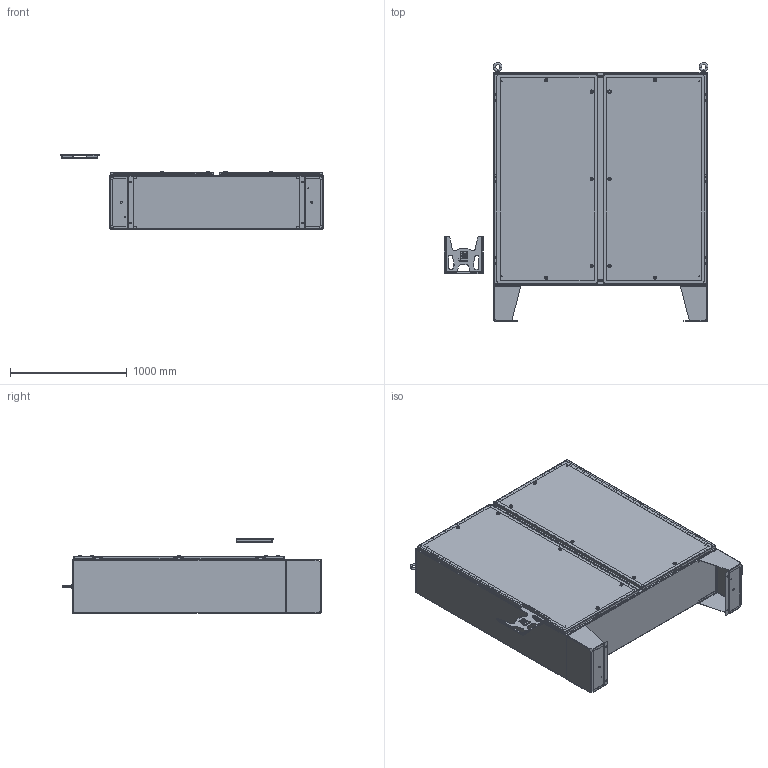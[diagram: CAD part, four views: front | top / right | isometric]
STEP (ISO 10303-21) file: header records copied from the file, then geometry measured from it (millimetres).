
FILE_DESCRIPTION (( 'STEP AP203' ), '1' );
FILE_NAME ('a72h7218sslpqt.STEP', '2013-10-07T17:55:28', ( 'User' ), ( 'Pentair Inc' ), 'SwSTEP 2.0', 'SolidWorks 2010', '' );
FILE_SCHEMA (( 'CONFIG_CONTROL_DESIGN' ));
Length unit declared in the file: inch
Products named in the file (43): a72h7218sslpqt; 89080953; 87579050; 87579046; 87579044; 87579048; 87578827; 22112003_AFTER WELD; 99412095_Config-Drawing; 87573767; 87573748; 87573769; 87549311; 21158254; 87553391; 99414622_99414622; 99401026_default; 87573197; 87932883; 87794223_87794223; 99402203_99402203; 87578866_87578866; 89081420; 87578829; 99412095; 87577162; 89053339; 87951531; 87573771; 87400434; 87577158; 89056614; 99411089; 99411283; 87960064; 89060306; 11458483; 87932262; 87932266; 87956875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
Assembly tree (98 placements, depth 5):
  a72h7218sslpqt
    89080953
      87578866_87578866  x2
      22112003_AFTER WELD  x8
      87932883  x2
      99402203_99402203
      87794223_87794223  x2
      87573767
        99401026_default  x8
        87573748
        99414622_99414622  x8
        87549311  x2
        21158254  x2
        87553391  x2
        87573769
      87578827
      87579048
      99412095_Config-Drawing  x2
      87573197  x2
      87579050
      87579046
      87579044
    89081420  x2
      87577162
      87578829
      89053339
      99412095
    89056614  x10
      87960064
        89060306
        11458483
          87956875
          87932266
          87932262
      99411089
      99411283
    87577158  x6
    87577160  x6
    87951531  x2
      87573771
      87400434
    87780100_FLEXIBLE
      23418001
Bounding box: 2263.92 x 2218.23 x 637 mm (x, y, z)
Volume: 29576683.4 mm3; surface area: 24960729.6 mm2
Topology: 125 solids, 165 shells, 6063 faces, 14822 edges, 9288 vertices
Faces by surface type: plane 2976, cylinder 1918, bspline 551, cone 494, torus 120, sphere 4
Entity records: 84459 total; most frequent: CARTESIAN_POINT 29534, ORIENTED_EDGE 10436, DIRECTION 9325, EDGE_CURVE 5222, VECTOR 3387, LINE 3387, VERTEX_POINT 3287, AXIS2_PLACEMENT_3D 2969
